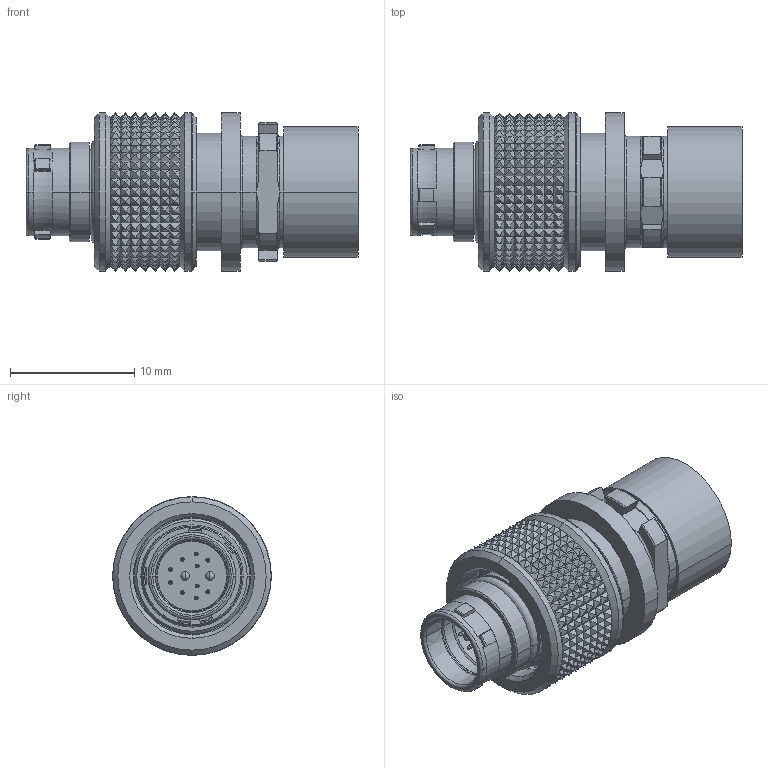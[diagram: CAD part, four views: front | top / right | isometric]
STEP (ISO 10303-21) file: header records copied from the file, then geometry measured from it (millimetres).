
FILE_DESCRIPTION((''),'2;1');
FILE_NAME('00155625--','2019-07-31T',('DTurza'),(''),'PRO/ENGINEER BY PARAMETRIC TECHNOLOGY CORPORATION, 2016360','PRO/ENGINEER BY PARAMETRIC TECHNOLOGY CORPORATION, 2016360','');
FILE_SCHEMA(('AUTOMOTIVE_DESIGN { 1 0 10303 214 1 1 1 1 }'));
Products named in the file (1): 00155625--
Bounding box: 26.75 x 12.8 x 12.8 mm (x, y, z)
Volume: 1323.7 mm3; surface area: 3128.8 mm2
Topology: 2 solids, 3 shells, 1945 faces, 3888 edges, 1953 vertices
Faces by surface type: plane 831, cone 804, cylinder 195, torus 71, sphere 24, bspline 20
Entity records: 66959 total; most frequent: CARTESIAN_POINT 16085, ORIENTED_EDGE 7680, DIRECTION 7566, EDGE_CURVE 3840, AXIS2_PLACEMENT_3D 3378, EDGE_LOOP 2001, VERTEX_POINT 1953, FILL_AREA_STYLE_COLOUR 1946
